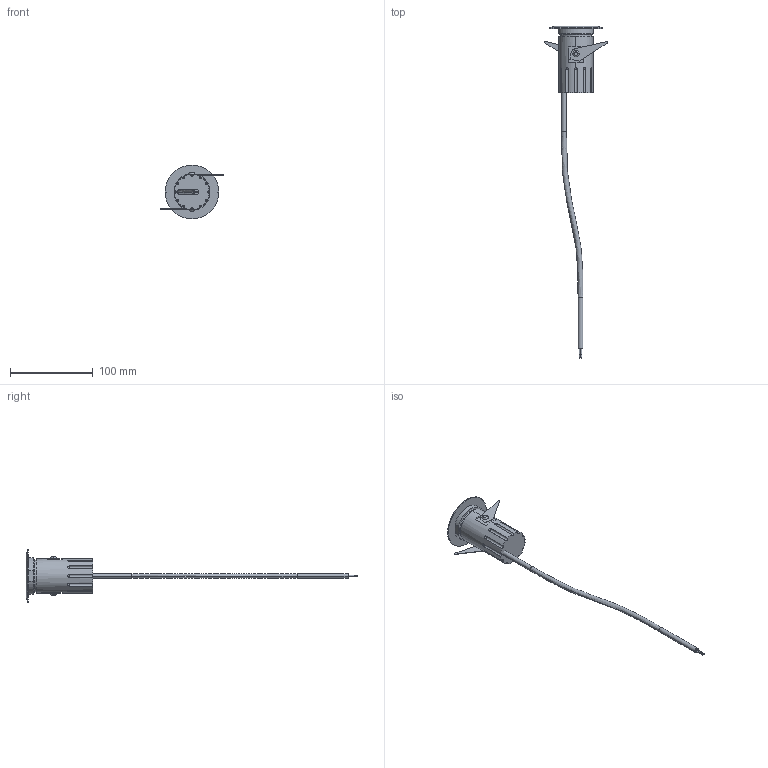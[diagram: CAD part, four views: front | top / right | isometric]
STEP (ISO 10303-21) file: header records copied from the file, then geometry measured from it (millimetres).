
FILE_DESCRIPTION((''),'2;1');
FILE_NAME('CNC50_V2_ASSIEME_SW0001','2025-06-27T13:37:03',('Piccioli'),(''),'CREO PARAMETRIC BY PTC INC, 2025010','CREO PARAMETRIC BY PTC INC, 2025010','');
FILE_SCHEMA(('CONFIG_CONTROL_DESIGN'));
Length unit declared in the file: millimetre
Products named in the file (1): CNC50_V2_ASSIEME_SW0001
Bounding box: 76.01 x 401.25 x 65 mm (x, y, z)
Surface area: 30784.4 mm2 (no closed solid volume)
Topology: 0 solids, 13 shells, 94 faces, 262 edges, 172 vertices
Faces by surface type: cylinder 38, plane 32, bspline 18, cone 4, torus 2
Entity records: 4404 total; most frequent: CARTESIAN_POINT 1980, DIRECTION 530, ORIENTED_EDGE 476, EDGE_CURVE 262, AXIS2_PLACEMENT_3D 218, VERTEX_POINT 172, CIRCLE 142, VECTOR 94
